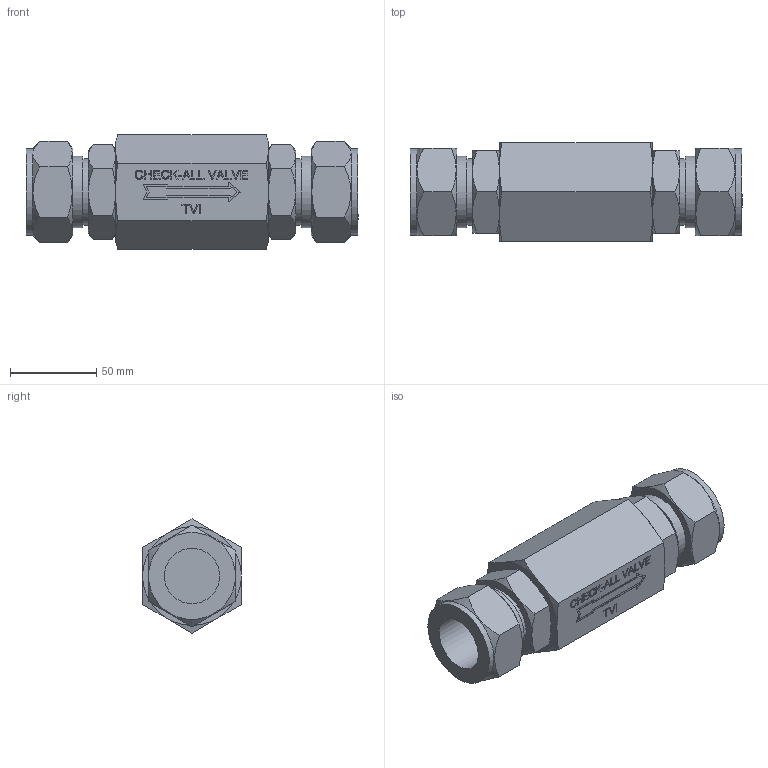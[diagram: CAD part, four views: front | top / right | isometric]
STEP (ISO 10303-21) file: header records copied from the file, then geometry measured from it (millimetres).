
FILE_DESCRIPTION( ( 'Unknown' ), '1' );
FILE_NAME( 'Y:/ENGR/3D Solid Edge Models/TV/stp/TVI.stp', 'Unknown', ( 'Unknown' ), ( 'Unknown' ), 'PSStep 16.0.42', 'Unknown', ' ' );
FILE_SCHEMA( ( 'AUTOMOTIVE_DESIGN { 1 0 10303 214 1 1 1 1 }' ) );
Length unit declared in the file: millimetre
Products named in the file (1): 1
Bounding box: 192.02 x 57.15 x 65.99 mm (x, y, z)
Volume: 403980.4 mm3; surface area: 50032.9 mm2
Topology: 1 solids, 1 shells, 268 faces, 667 edges, 432 vertices
Faces by surface type: extrusion 133, plane 87, cone 40, cylinder 8
Full cylindrical faces by diameter (mm): 32.029 x2, 38.278 x2, 41.275 x2, 50.292 x2
Entity records: 11333 total; most frequent: CARTESIAN_POINT 2874, ORIENTED_EDGE 1302, DIRECTION 867, EDGE_CURVE 651, VECTOR 487, VERTEX_POINT 428, B_SPLINE_CURVE_WITH_KNOTS 376, PRESENTATION_STYLE_ASSIGNMENT 375
